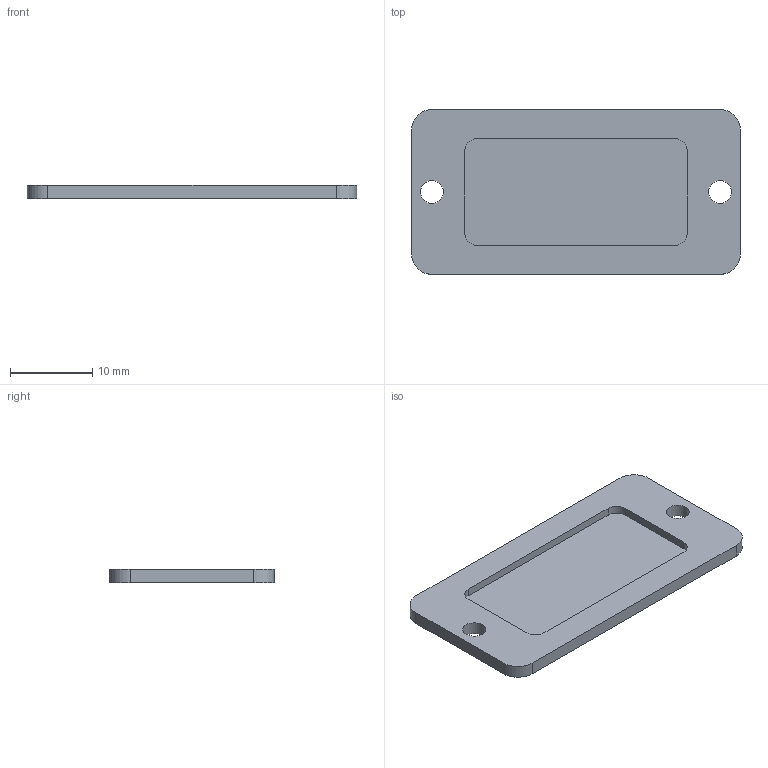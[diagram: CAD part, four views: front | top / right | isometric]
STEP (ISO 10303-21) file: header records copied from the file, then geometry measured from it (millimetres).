
FILE_DESCRIPTION(('Open CASCADE Model'),'2;1');
FILE_NAME('Open CASCADE Shape Model','2026-11-08T21:30:43',('Author'),( 'Open CASCADE'),'Open CASCADE STEP processor 7.8','Open CASCADE 7.8' ,'Unknown');
FILE_SCHEMA(('AUTOMOTIVE_DESIGN { 1 0 10303 214 1 1 1 1 }'));
Length unit declared in the file: millimetre
Products named in the file (1): Open CASCADE STEP translator 7.8 5
Bounding box: 40 x 20 x 1.6 mm (x, y, z)
Volume: 902.6 mm3; surface area: 1855.3 mm2
Topology: 1 solids, 1 shells, 21 faces, 54 edges, 36 vertices
Faces by surface type: plane 11, cylinder 10
Full cylindrical faces by diameter (mm): 2.8 x2
Entity records: 1370 total; most frequent: CARTESIAN_POINT 272, DIRECTION 204, ORIENTED_EDGE 108, PCURVE 108, DEFINITIONAL_REPRESENTATION 108, LINE 106, VECTOR 106, EDGE_CURVE 54
